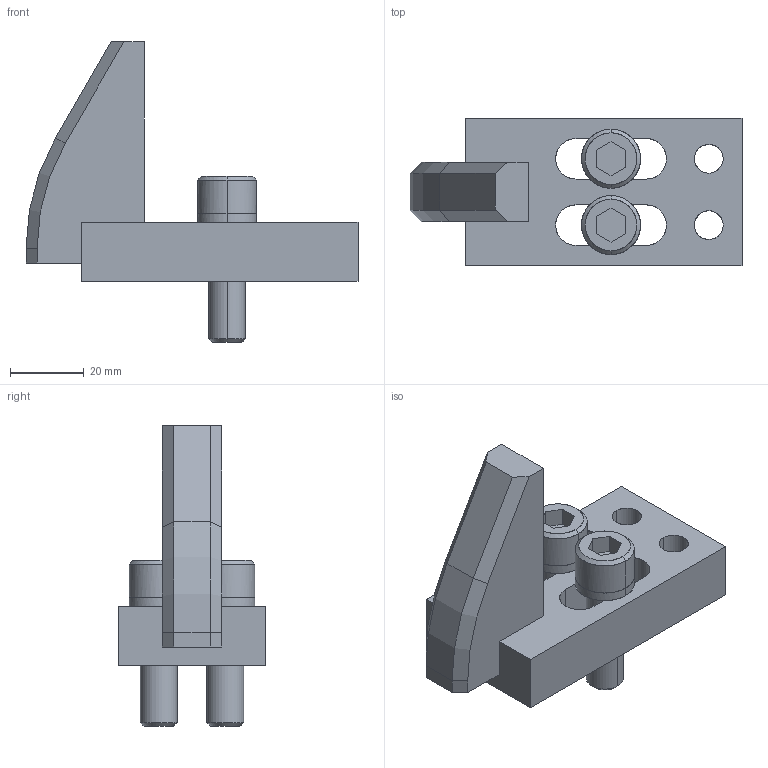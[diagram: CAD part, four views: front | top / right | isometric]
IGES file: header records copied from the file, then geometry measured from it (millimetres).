
Global section: file name: E:\UnigraphicsGraphicData\MISUMI_PRESS-PARTS\IGES\3d_enstc65-40-m10_01432_r00.igs; native system: NX V5.0; preprocessor: UGS NX IGES V5.0; author: MISUMI; date: 20110105.160627; units: millimetre
Bounding box: 90 x 40 x 81.5 mm (x, y, z)
Surface area: 20469.9 mm2 (no closed solid volume)
Topology: 0 solids, 0 shells, 80 faces, 518 edges, 518 vertices
Faces by surface type: bspline 80
